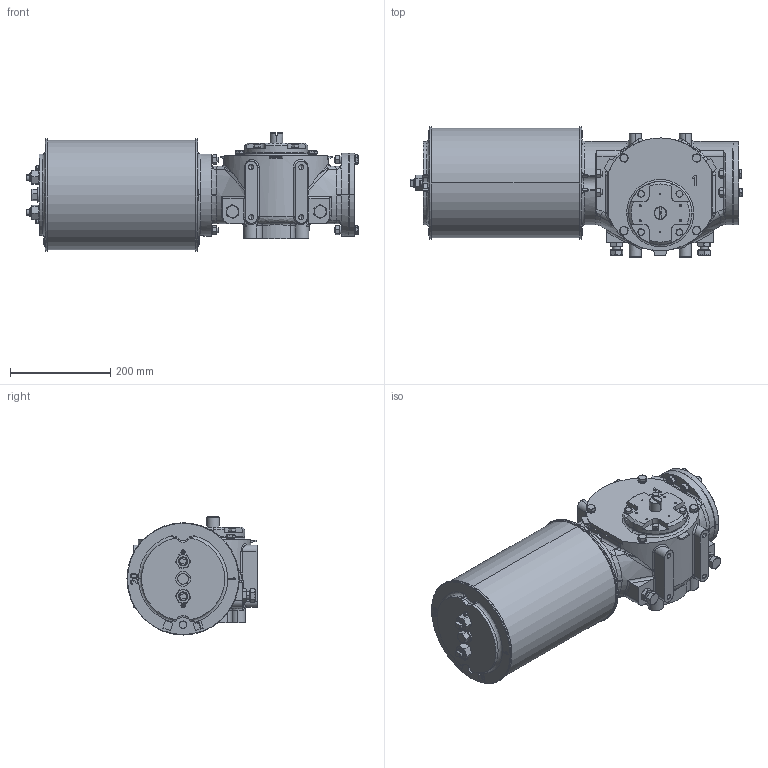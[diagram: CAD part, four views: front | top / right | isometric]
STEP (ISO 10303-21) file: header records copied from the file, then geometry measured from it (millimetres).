
FILE_DESCRIPTION (( 'STEP AP214' ), '1' );
FILE_NAME ('VTS1-200.STEP', '2018-01-06T00:40:50', ( '' ), ( '' ), 'SwSTEP 2.0', 'SolidWorks 2016', '' );
FILE_SCHEMA (( 'AUTOMOTIVE_DESIGN' ));
Length unit declared in the file: millimetre
Products named in the file (1): VTS1-200
Bounding box: 662.58 x 259.5 x 235.5 mm (x, y, z)
Volume: 19994899.6 mm3; surface area: 704611.4 mm2
Topology: 1 solids, 9 shells, 1534 faces, 4123 edges, 2656 vertices
Faces by surface type: plane 622, cylinder 418, cone 297, bspline 197
Entity records: 92930 total; most frequent: CARTESIAN_POINT 41335, ORIENTED_EDGE 8158, DIRECTION 5861, EDGE_CURVE 4079, VERTEX_POINT 2656, AXIS2_PLACEMENT_3D 2178, EDGE_LOOP 1675, B_SPLINE_CURVE_WITH_KNOTS 1640
